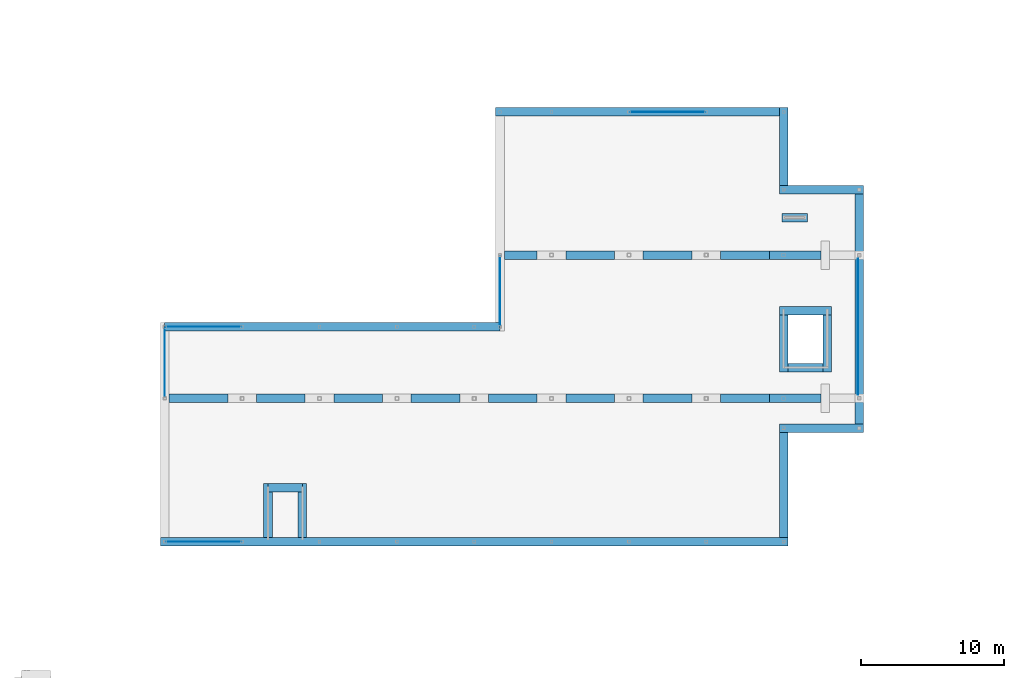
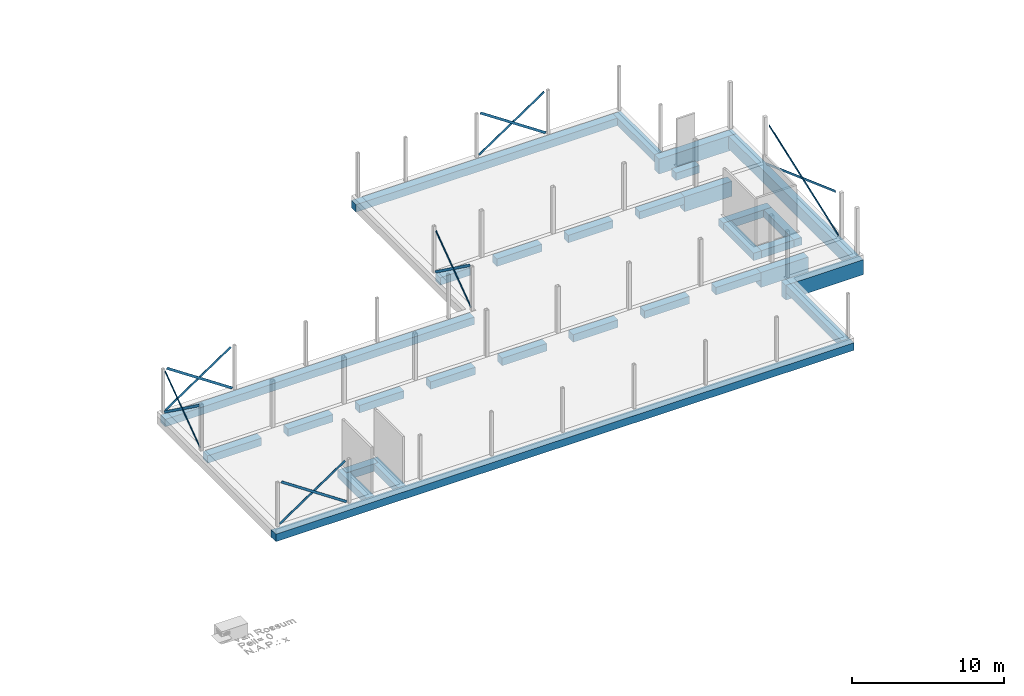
# One storey, part 6 of 12: 32 beams.
"""IFC2X3 building model written with IfcOpenShell, lengths in millimetres."""

from ifc_helpers import new_model, entity, si_unit, converted_unit, derived_unit, direction, frame, frame_2d, origin, origin_2d_with_axis, place, context, subcontext, project, spatial, rectangle, extrude, faceted_brep, source, transform, mapped, material, type_object, type_shapes, element, save


model = new_model("IFC2X3")

# Units and contexts
model_context = context("Model", 3, precision=0.01, world=origin(), true_north=direction((6.123031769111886e-17, 1.0)))
body_context = subcontext(model_context, "Body", "Model", "MODEL_VIEW")
ifc_project = project(units=[si_unit("LENGTHUNIT", "METRE", prefix="MILLI"), si_unit("AREAUNIT", "SQUARE_METRE"), si_unit("VOLUMEUNIT", "CUBIC_METRE"), converted_unit("PLANEANGLEUNIT", "DEGREE", entity("IfcPlaneAngleMeasure", 0.017453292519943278), si_unit("PLANEANGLEUNIT", "RADIAN"), dimensions=[0, 0, 0, 0, 0, 0, 0]), si_unit("MASSUNIT", "GRAM", prefix="KILO"), derived_unit("MASSDENSITYUNIT", [(si_unit("MASSUNIT", "GRAM", prefix="KILO"), 1), (si_unit("LENGTHUNIT", "METRE"), -3)]), derived_unit("IONCONCENTRATIONUNIT", [(si_unit("MASSUNIT", "GRAM", prefix="KILO"), 1), (si_unit("LENGTHUNIT", "METRE"), -3)]), derived_unit("MOMENTOFINERTIAUNIT", [(si_unit("LENGTHUNIT", "METRE"), 4)]), si_unit("TIMEUNIT", "SECOND"), si_unit("FREQUENCYUNIT", "HERTZ"), si_unit("THERMODYNAMICTEMPERATUREUNIT", "DEGREE_CELSIUS"), derived_unit("THERMALTRANSMITTANCEUNIT", [(si_unit("MASSUNIT", "GRAM", prefix="KILO"), 1), (si_unit("THERMODYNAMICTEMPERATUREUNIT", "KELVIN"), -1), (si_unit("TIMEUNIT", "SECOND"), -3)]), derived_unit("THERMALCONDUCTANCEUNIT", [(si_unit("MASSUNIT", "GRAM", prefix="KILO"), 1), (si_unit("THERMODYNAMICTEMPERATUREUNIT", "KELVIN"), -1), (si_unit("TIMEUNIT", "SECOND"), -3), (si_unit("LENGTHUNIT", "METRE"), 1)]), derived_unit("VOLUMETRICFLOWRATEUNIT", [(si_unit("LENGTHUNIT", "METRE", prefix="DECI"), 3), (si_unit("TIMEUNIT", "SECOND"), -1)]), derived_unit("MASSFLOWRATEUNIT", [(si_unit("MASSUNIT", "GRAM", prefix="KILO"), 1), (si_unit("TIMEUNIT", "SECOND"), -1)]), derived_unit("ROTATIONALFREQUENCYUNIT", [(si_unit("TIMEUNIT", "SECOND"), -1)]), si_unit("ELECTRICCURRENTUNIT", "AMPERE"), si_unit("ELECTRICVOLTAGEUNIT", "VOLT"), si_unit("POWERUNIT", "WATT"), si_unit("FORCEUNIT", "NEWTON", prefix="KILO"), si_unit("ILLUMINANCEUNIT", "LUX"), si_unit("LUMINOUSFLUXUNIT", "LUMEN"), si_unit("LUMINOUSINTENSITYUNIT", "CANDELA"), si_unit("ENERGYUNIT", "JOULE"), derived_unit("USERDEFINED", [(si_unit("MASSUNIT", "GRAM", prefix="KILO"), -1), (si_unit("LENGTHUNIT", "METRE"), -2), (si_unit("TIMEUNIT", "SECOND"), 3), (si_unit("LUMINOUSFLUXUNIT", "LUMEN"), 1)]), derived_unit("USERDEFINED", [(si_unit("MASSUNIT", "GRAM", prefix="KILO"), 1), (si_unit("TIMEUNIT", "SECOND"), -3), (si_unit("LENGTHUNIT", "METRE"), 3), (si_unit("ELECTRICCURRENTUNIT", "AMPERE"), -2)]), derived_unit("SOUNDPOWERUNIT", [(si_unit("MASSUNIT", "GRAM", prefix="KILO"), 1), (si_unit("TIMEUNIT", "SECOND"), -3), (si_unit("LENGTHUNIT", "METRE"), 2)]), derived_unit("SOUNDPRESSUREUNIT", [(si_unit("MASSUNIT", "GRAM", prefix="KILO"), 1), (si_unit("LENGTHUNIT", "METRE"), -1), (si_unit("TIMEUNIT", "SECOND"), -2)]), derived_unit("LINEARVELOCITYUNIT", [(si_unit("LENGTHUNIT", "METRE"), 1), (si_unit("TIMEUNIT", "SECOND"), -1)]), si_unit("PRESSUREUNIT", "PASCAL"), derived_unit("USERDEFINED", [(si_unit("MASSUNIT", "GRAM", prefix="KILO"), 1), (si_unit("LENGTHUNIT", "METRE"), -2), (si_unit("TIMEUNIT", "SECOND"), -2)]), derived_unit("LINEARFORCEUNIT", [(si_unit("MASSUNIT", "GRAM", prefix="KILO"), 1), (si_unit("TIMEUNIT", "SECOND"), -2)]), derived_unit("PLANARFORCEUNIT", [(si_unit("MASSUNIT", "GRAM", prefix="KILO"), 1), (si_unit("LENGTHUNIT", "METRE"), -1), (si_unit("TIMEUNIT", "SECOND"), -2)]), derived_unit("SPECIFICHEATCAPACITYUNIT", [(si_unit("THERMODYNAMICTEMPERATUREUNIT", "KELVIN"), -1), (si_unit("LENGTHUNIT", "METRE"), 2), (si_unit("TIMEUNIT", "SECOND"), -2)]), derived_unit("HEATFLUXDENSITYUNIT", [(si_unit("MASSUNIT", "GRAM", prefix="KILO"), 1), (si_unit("TIMEUNIT", "SECOND"), -3)]), derived_unit("HEATINGVALUEUNIT", [(si_unit("LENGTHUNIT", "METRE"), 2), (si_unit("TIMEUNIT", "SECOND"), -2)]), derived_unit("VAPORPERMEABILITYUNIT", [(si_unit("LENGTHUNIT", "METRE"), -1), (si_unit("TIMEUNIT", "SECOND"), 1)]), derived_unit("DYNAMICVISCOSITYUNIT", [(si_unit("MASSUNIT", "GRAM", prefix="KILO"), 1), (si_unit("TIMEUNIT", "SECOND"), -1), (si_unit("LENGTHUNIT", "METRE"), -1)]), derived_unit("THERMALEXPANSIONCOEFFICIENTUNIT", [(si_unit("THERMODYNAMICTEMPERATUREUNIT", "KELVIN"), -1)]), derived_unit("MODULUSOFELASTICITYUNIT", [(si_unit("MASSUNIT", "GRAM", prefix="KILO"), 1), (si_unit("LENGTHUNIT", "METRE"), -1), (si_unit("TIMEUNIT", "SECOND"), -2)]), derived_unit("ISOTHERMALMOISTURECAPACITYUNIT", [(si_unit("MASSUNIT", "GRAM", prefix="KILO"), -1), (si_unit("LENGTHUNIT", "METRE"), 3)]), derived_unit("MOISTUREDIFFUSIVITYUNIT", [(si_unit("TIMEUNIT", "SECOND"), -1), (si_unit("LENGTHUNIT", "METRE"), 2)]), derived_unit("MASSPERLENGTHUNIT", [(si_unit("MASSUNIT", "GRAM", prefix="KILO"), 1), (si_unit("LENGTHUNIT", "METRE"), -1)]), derived_unit("THERMALRESISTANCEUNIT", [(si_unit("MASSUNIT", "GRAM", prefix="KILO"), -1), (si_unit("TIMEUNIT", "SECOND"), 3), (si_unit("THERMODYNAMICTEMPERATUREUNIT", "KELVIN"), 1)]), derived_unit("ACCELERATIONUNIT", [(si_unit("LENGTHUNIT", "METRE"), 1), (si_unit("TIMEUNIT", "SECOND"), -2)]), derived_unit("ANGULARVELOCITYUNIT", [(si_unit("TIMEUNIT", "SECOND"), -1), (si_unit("PLANEANGLEUNIT", "RADIAN"), 1)]), derived_unit("LINEARSTIFFNESSUNIT", [(si_unit("MASSUNIT", "GRAM", prefix="KILO"), 1), (si_unit("TIMEUNIT", "SECOND"), -2)]), derived_unit("WARPINGCONSTANTUNIT", [(si_unit("LENGTHUNIT", "METRE"), 6)]), derived_unit("LINEARMOMENTUNIT", [(si_unit("MASSUNIT", "GRAM", prefix="KILO"), 1), (si_unit("LENGTHUNIT", "METRE"), 1), (si_unit("TIMEUNIT", "SECOND"), -2)]), derived_unit("TORQUEUNIT", [(si_unit("MASSUNIT", "GRAM", prefix="KILO"), 1), (si_unit("LENGTHUNIT", "METRE"), 2), (si_unit("TIMEUNIT", "SECOND"), -2)])], contexts=[model_context])

# Site, building, storey
site_placement = place(None, origin())
site = spatial("IfcSite", under=ifc_project, at=site_placement, Name="Default", CompositionType="ELEMENT")
building_placement = place(site_placement, origin())
building = spatial("IfcBuilding", under=site, at=building_placement, CompositionType="ELEMENT")
storey_placement = place(building_placement, origin())
storey = spatial("IfcBuildingStorey", under=building, at=storey_placement, Name="00 begane grond", CompositionType="ELEMENT", Elevation=0.0)

# Beams
ifc_material_1 = material(Name="VRI_beton_ihwg")
beam_type_1 = type_object("IfcBeamType", Name="16_SFR_VRI_balk_beton:600x600", PredefinedType="NOTDEFINED")
beam_1_placement = place(storey_placement, frame((53200.0, 10000.0, -460.0), z_axis=(0.0, 0.0, 1.0), x_axis=(-1.0, 0.0, 0.0)))
element("IfcBeam", 1, at=beam_1_placement, inside=storey, type_object=beam_type_1, material=ifc_material_1, Name="16_SFR_VRI_balk_beton:600x600", ObjectType="16_SFR_VRI_balk_beton:600x600", context=body_context, shape_type="SweptSolid", body=[
    extrude(rectangle(XDim=600.0000000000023, YDim=600.0, at=frame_2d((-5.684341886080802e-14, -1.6200374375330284e-12), x_axis=(1.0, 0.0))), frame((-300.0, 0.0, -300.0), z_axis=(1.0, 0.0, 0.0), x_axis=(0.0, 0.0, -1.0)), (0.0, 0.0, 1.0), 43800.00000000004),
])
beam_2_placement = place(storey_placement, frame((33400.0, 25000.0, -460.0), z_axis=(0.0, 0.0, 1.0), x_axis=(-1.0, 0.0, 0.0)))
element("IfcBeam", 2, at=beam_2_placement, inside=storey, type_object=beam_type_1, material=ifc_material_1, Name="16_SFR_VRI_balk_beton:600x600", ObjectType="16_SFR_VRI_balk_beton:600x600", context=body_context, shape_type="SweptSolid", body=[
    extrude(rectangle(XDim=600.0000000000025, YDim=600.0000000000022, at=frame_2d((-5.684341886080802e-14, 0.0), x_axis=(1.0, 0.0))), frame((0.0, 0.0, -300.0), z_axis=(1.0, 0.0, 0.0), x_axis=(0.0, 0.0, -1.0)), (0.0, 0.0, 1.0), 23419.999999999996),
])
beam_3_placement = place(storey_placement, frame((53200.0, 40000.0, -460.0), z_axis=(0.0, 0.0, 1.0), x_axis=(0.0, -1.0, 0.0)))
element("IfcBeam", 3, at=beam_3_placement, inside=storey, type_object=beam_type_1, material=ifc_material_1, Name="16_SFR_VRI_balk_beton:600x600", ObjectType="16_SFR_VRI_balk_beton:600x600", context=body_context, shape_type="SweptSolid", body=[
    extrude(rectangle(XDim=600.0000000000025, YDim=600.0000000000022, at=frame_2d((-5.684341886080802e-14, 0.0), x_axis=(1.0, 0.0))), frame((-300.0, 0.0, -300.0), z_axis=(1.0, 0.0, 0.0), x_axis=(0.0, 0.0, -1.0)), (0.0, 0.0, 1.0), 5425.000000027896),
])
beam_4_placement = place(storey_placement, frame((19600.0, 13753.0, -460.0), z_axis=(0.0, 0.0, 1.0), x_axis=(-1.0, 0.0, 0.0)))
element("IfcBeam", 4, at=beam_4_placement, inside=storey, type_object=beam_type_1, material=ifc_material_1, Name="16_SFR_VRI_balk_beton:600x600", ObjectType="16_SFR_VRI_balk_beton:600x600", context=body_context, shape_type="SweptSolid", body=[
    extrude(rectangle(XDim=600.0000000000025, YDim=599.9999999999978, at=frame_2d((-5.684341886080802e-14, 1.0800249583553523e-12), x_axis=(1.0, 0.0))), frame((0.0, 0.0, -300.0), z_axis=(1.0, 0.0, 0.0), x_axis=(0.0, 0.0, -1.0)), (0.0, 0.0, 1.0), 2399.9999999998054),
])
beam_5_placement = place(storey_placement, frame((19300.0, 10300.0, -1060.0), z_axis=(0.0, 0.0, 1.0), x_axis=(0.0, -1.0, 0.0)))
element("IfcBeam", 5, at=beam_5_placement, inside=storey, type_object=beam_type_1, material=ifc_material_1, Name="16_SFR_VRI_balk_beton:600x600", ObjectType="16_SFR_VRI_balk_beton:600x600", context=body_context, shape_type="Brep", body=[
    faceted_brep([(0.0, 0.0, 600.0), (0.0, 600.0, 600.0), (-3753.0, 600.0, 600.0), (-3753.0, 300.0, 600.0), (-3153.0, 300.0, 600.0), (-3153.0, 0.0, 600.0), (0.0, 600.0, 0.0), (-3753.0, 600.0, 0.0), (0.0, 0.0, 0.0), (-3153.0, 0.0, 0.0), (-3153.0, 300.0, 0.0), (-3753.0, 300.0, 0.0)], [[[0, 1, 2, 3, 4, 5]], [[1, 6, 7, 2]], [[6, 8, 9, 10, 11, 7]], [[8, 0, 5, 9]], [[1, 0, 8, 6]], [[2, 7, 11, 3]], [[10, 4, 3, 11]], [[4, 10, 9, 5]]]),
])
beam_6_placement = place(storey_placement, frame((53200.0, 40000.0, -460.0), z_axis=(0.0, 0.0, 1.0), x_axis=(-1.0, 0.0, 0.0)))
element("IfcBeam", 6, at=beam_6_placement, inside=storey, type_object=beam_type_1, material=ifc_material_1, Name="16_SFR_VRI_balk_beton:600x600", ObjectType="16_SFR_VRI_balk_beton:600x600", context=body_context, shape_type="SweptSolid", body=[
    extrude(rectangle(XDim=600.0000000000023, YDim=600.0000000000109, at=frame_2d((-5.684341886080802e-14, -4.348521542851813e-12), x_axis=(1.0, 0.0))), frame((300.0, 0.0, -300.0), z_axis=(1.0, 0.0, 0.0), x_axis=(0.0, 0.0, -1.0)), (0.0, 0.0, 1.0), 19800.000000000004),
])
beam_7_placement = place(storey_placement, frame((53200.0, 17925.0, -460.0), z_axis=(0.0, 0.0, 1.0), x_axis=(0.0, -1.0, 0.0)))
element("IfcBeam", 7, at=beam_7_placement, inside=storey, type_object=beam_type_1, material=ifc_material_1, Name="16_SFR_VRI_balk_beton:600x600", ObjectType="16_SFR_VRI_balk_beton:600x600", context=body_context, shape_type="SweptSolid", body=[
    extrude(rectangle(XDim=600.0000000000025, YDim=600.0000000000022, at=frame_2d((-5.684341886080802e-14, 0.0), x_axis=(1.0, 0.0))), frame((300.0, 0.0, -300.0), z_axis=(1.0, 0.0, 0.0), x_axis=(0.0, 0.0, -1.0)), (0.0, 0.0, 1.0), 7324.999999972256),
])
beam_8_placement = place(storey_placement, frame((54855.0, 32625.0, -460.0), z_axis=(0.0, 0.0, 1.0), x_axis=(-1.0, 0.0, 0.0)))
element("IfcBeam", 8, at=beam_8_placement, inside=storey, type_object=beam_type_1, material=ifc_material_1, Name="16_SFR_VRI_balk_beton:600x600", ObjectType="16_SFR_VRI_balk_beton:600x600", context=body_context, shape_type="SweptSolid", body=[
    extrude(rectangle(XDim=600.0000000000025, YDim=599.9999999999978, at=frame_2d((-5.684341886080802e-14, 0.0), x_axis=(1.0, 0.0))), frame((0.0, 0.0, -300.0), z_axis=(1.0, 0.0, 0.0), x_axis=(0.0, 0.0, -1.0)), (0.0, 0.0, 1.0), 1780.0000000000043),
])
beam_9_placement = place(storey_placement, frame((16900.0, 10300.0, -1060.0), z_axis=(0.0, 0.0, 1.0), x_axis=(0.0, -1.0, 0.0)))
element("IfcBeam", 9, at=beam_9_placement, inside=storey, type_object=beam_type_1, material=ifc_material_1, Name="16_SFR_VRI_balk_beton:600x600", ObjectType="16_SFR_VRI_balk_beton:600x600", context=body_context, shape_type="Brep", body=[
    faceted_brep([(-3753.0, 300.0, 600.0), (-3753.0, 0.0, 600.0), (0.0, 0.0, 600.0), (0.0, 600.0, 600.0), (-3153.0, 600.0, 600.0), (-3153.0, 300.0, 600.0), (-3753.0, 0.0, 0.0), (0.0, 0.0, 0.0), (-3753.0, 300.0, 0.0), (-3153.0, 300.0, 0.0), (-3153.0, 600.0, 0.0), (0.0, 600.0, 0.0)], [[[0, 1, 2, 3, 4, 5]], [[1, 6, 7, 2]], [[6, 8, 9, 10, 11, 7]], [[10, 4, 3, 11]], [[6, 1, 0, 8]], [[5, 9, 8, 0]], [[9, 5, 4, 10]], [[3, 2, 7, 11]]]),
])
beam_10_placement = place(storey_placement, frame((56250.0, 26130.0, -460.0), z_axis=(0.0, 0.0, 1.0), x_axis=(-1.0, 0.0, 0.0)))
element("IfcBeam", 10, at=beam_10_placement, inside=storey, type_object=beam_type_1, material=ifc_material_1, Name="16_SFR_VRI_balk_beton:600x600", ObjectType="16_SFR_VRI_balk_beton:600x600", context=body_context, shape_type="SweptSolid", body=[
    extrude(rectangle(XDim=600.0000000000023, YDim=599.9999999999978, at=frame_2d((-5.684341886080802e-14, 2.1600499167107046e-12), x_axis=(1.0, 0.0))), frame((-300.0, 0.0, -300.0), z_axis=(1.0, 0.0, 0.0), x_axis=(0.0, 0.0, -1.0)), (0.0, 0.0, 1.0), 3649.9999999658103),
])
beam_11_placement = place(storey_placement, frame((56250.0, 26130.0, -460.0), z_axis=(0.0, 0.0, 1.0), x_axis=(0.0, -1.0, 0.0)))
element("IfcBeam", 11, at=beam_11_placement, inside=storey, type_object=beam_type_1, material=ifc_material_1, Name="16_SFR_VRI_balk_beton:600x600", ObjectType="16_SFR_VRI_balk_beton:600x600", context=body_context, shape_type="SweptSolid", body=[
    extrude(rectangle(XDim=600.0000000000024, YDim=600.0000000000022, at=frame_2d((1.1368683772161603e-13, 0.0), x_axis=(1.0, 0.0))), frame((300.0, 0.0, -300.0), z_axis=(1.0, 0.0, 0.0), x_axis=(0.0, 0.0, -1.0)), (0.0, 0.0, 1.0), 3976.9999999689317),
])
beam_12_placement = place(storey_placement, frame((53200.0, 22153.0, -460.0), z_axis=(0.0, 0.0, 1.0), x_axis=(0.0, 1.0, 0.0)))
element("IfcBeam", 12, at=beam_12_placement, inside=storey, type_object=beam_type_1, material=ifc_material_1, Name="16_SFR_VRI_balk_beton:600x600", ObjectType="16_SFR_VRI_balk_beton:600x600", context=body_context, shape_type="SweptSolid", body=[
    extrude(rectangle(XDim=600.0000000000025, YDim=600.0000000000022, at=frame_2d((-5.684341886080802e-14, 0.0), x_axis=(1.0, 0.0))), frame((-300.0, 0.0, -300.0), z_axis=(1.0, 0.0, 0.0), x_axis=(0.0, 0.0, -1.0)), (0.0, 0.0, 1.0), 3976.9999999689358),
])
beam_13_placement = place(storey_placement, frame((53200.0, 22153.0, -460.0)))
element("IfcBeam", 13, at=beam_13_placement, inside=storey, type_object=beam_type_1, material=ifc_material_1, Name="16_SFR_VRI_balk_beton:600x600", ObjectType="16_SFR_VRI_balk_beton:600x600", context=body_context, shape_type="SweptSolid", body=[
    extrude(rectangle(XDim=600.0000000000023, YDim=599.9999999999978, at=frame_2d((-5.684341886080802e-14, 2.1600499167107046e-12), x_axis=(1.0, 0.0))), frame((300.0, 0.0, -300.0), z_axis=(1.0, 0.0, 0.0), x_axis=(0.0, 0.0, -1.0)), (0.0, 0.0, 1.0), 2449.999999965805),
])
beam_type_2 = type_object("IfcBeamType", Name="16_SFR_VRI_balk_beton:600x600", PredefinedType="BEAM", material=ifc_material_1)
shared_shape_1 = source(origin(), body_context, "Body", "SweptSolid", [
    extrude(rectangle(XDim=600.0000000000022, YDim=599.9999999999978, at=frame_2d((0.0, 4.348521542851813e-12), x_axis=(1.0, 0.0))), frame((52200.0, 20000.0, -760.0), z_axis=(-1.0, 0.0, 0.0), x_axis=(0.0, 0.0, -1.0)), (0.0, 0.0, 1.0), 3400.0000000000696),
    extrude(rectangle(XDim=600.0000000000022, YDim=599.9999999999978, at=origin_2d_with_axis()), frame((14400.0, 20000.0, -760.0), z_axis=(-1.0, 0.0, 0.0), x_axis=(0.0, 0.0, -1.0)), (0.0, 0.0, 1.0), 4100.000000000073),
    extrude(rectangle(XDim=600.0000000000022, YDim=599.9999999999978, at=frame_2d((0.0, 2.1600499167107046e-12), x_axis=(1.0, 0.0))), frame((41400.0, 20000.0, -760.0), z_axis=(-1.0, 0.0, 0.0), x_axis=(0.0, 0.0, -1.0)), (0.0, 0.0, 1.0), 3400.0),
    extrude(rectangle(XDim=600.0000000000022, YDim=599.9999999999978, at=frame_2d((0.0, 2.1600499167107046e-12), x_axis=(1.0, 0.0))), frame((36000.0, 20000.0, -760.0), z_axis=(-1.0, 0.0, 0.0), x_axis=(0.0, 0.0, -1.0)), (0.0, 0.0, 1.0), 3400.0000000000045),
    extrude(rectangle(XDim=600.0000000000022, YDim=599.9999999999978, at=frame_2d((0.0, 2.1600499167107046e-12), x_axis=(1.0, 0.0))), frame((30600.0, 20000.0, -760.0), z_axis=(-1.0, 0.0, 0.0), x_axis=(0.0, 0.0, -1.0)), (0.0, 0.0, 1.0), 3399.9999999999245),
    extrude(rectangle(XDim=600.0000000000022, YDim=599.9999999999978, at=frame_2d((0.0, 2.1600499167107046e-12), x_axis=(1.0, 0.0))), frame((25200.0, 20000.0, -760.0), z_axis=(-1.0, 0.0, 0.0), x_axis=(0.0, 0.0, -1.0)), (0.0, 0.0, 1.0), 3400.0000000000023),
    extrude(rectangle(XDim=600.0000000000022, YDim=599.9999999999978, at=frame_2d((0.0, -2.1600499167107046e-12), x_axis=(1.0, 0.0))), frame((19800.0, 20000.0, -760.0), z_axis=(-1.0, 0.0, 0.0), x_axis=(0.0, 0.0, -1.0)), (0.0, 0.0, 1.0), 3399.999999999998),
    extrude(rectangle(XDim=600.0000000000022, YDim=599.9999999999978, at=frame_2d((0.0, 2.1600499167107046e-12), x_axis=(1.0, 0.0))), frame((46800.0, 20000.0, -760.0), z_axis=(-1.0, 0.0, 0.0), x_axis=(0.0, 0.0, -1.0)), (0.0, 0.0, 1.0), 3399.9999999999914),
])
type_shapes(beam_type_2, [shared_shape_1])
beam_14_placement = place(storey_placement, origin())
element("IfcBeam", 14, at=beam_14_placement, inside=storey, type_object=beam_type_2, material=ifc_material_1, Name="16_SFR_VRI_balk_beton:600x600", ObjectType="16_SFR_VRI_balk_beton:600x600", context=body_context, shape_type="MappedRepresentation", body=[
    mapped(shared_shape_1, transform((0.0, 0.0, 0.0), scale=1.0)),
])
beam_type_3 = type_object("IfcBeamType", Name="16_SFR_VRI_balk_beton:600x1000", PredefinedType="NOTDEFINED")
beam_15_placement = place(storey_placement, frame((58475.0, 34575.0, -460.0), z_axis=(0.0, 0.0, 1.0), x_axis=(0.0, -1.0, 0.0)))
element("IfcBeam", 15, at=beam_15_placement, inside=storey, type_object=beam_type_3, material=ifc_material_1, Name="16_SFR_VRI_balk_beton:600x1000", ObjectType="16_SFR_VRI_balk_beton:600x1000", context=body_context, shape_type="SweptSolid", body=[
    extrude(rectangle(XDim=1000.0000000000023, YDim=600.0000000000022, at=origin_2d_with_axis()), frame((300.0, 0.0, -500.0), z_axis=(1.0, 0.0, 0.0), x_axis=(0.0, 0.0, -1.0)), (0.0, 0.0, 1.0), 16049.999999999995),
])
beam_type_4 = type_object("IfcBeamType", Name="16_SFR_VRI_balk_beton:600x1200", PredefinedType="NOTDEFINED")
beam_16_placement = place(storey_placement, frame((58475.0, 17925.0, -460.0), z_axis=(0.0, 0.0, 1.0), x_axis=(-1.0, 0.0, 0.0)))
element("IfcBeam", 16, at=beam_16_placement, inside=storey, type_object=beam_type_4, material=ifc_material_1, Name="16_SFR_VRI_balk_beton:600x1200", ObjectType="16_SFR_VRI_balk_beton:600x1200", context=body_context, shape_type="SweptSolid", body=[
    extrude(rectangle(XDim=1200.0000000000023, YDim=599.9999999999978, at=frame_2d((-5.684341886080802e-14, -2.1600499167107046e-12), x_axis=(1.0, 0.0))), frame((-300.0, 0.0, -600.0), z_axis=(1.0, 0.0, 0.0), x_axis=(0.0, 0.0, -1.0)), (0.0, 0.0, 1.0), 5875.000000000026),
])
beam_17_placement = place(storey_placement, frame((58475.0, 34575.0, -460.0), z_axis=(0.0, 0.0, 1.0), x_axis=(-1.0, 0.0, 0.0)))
element("IfcBeam", 17, at=beam_17_placement, inside=storey, type_object=beam_type_4, material=ifc_material_1, Name="16_SFR_VRI_balk_beton:600x1200", ObjectType="16_SFR_VRI_balk_beton:600x1200", context=body_context, shape_type="SweptSolid", body=[
    extrude(rectangle(XDim=1200.0000000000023, YDim=600.0000000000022, at=frame_2d((-5.684341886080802e-14, 0.0), x_axis=(1.0, 0.0))), frame((-300.0, 0.0, -600.0), z_axis=(1.0, 0.0, 0.0), x_axis=(0.0, 0.0, -1.0)), (0.0, 0.0, 1.0), 5875.000000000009),
])
beam_18_placement = place(storey_placement, frame((56100.0, 20000.0, -460.0), z_axis=(0.0, 0.0, 1.0), x_axis=(-1.0, 0.0, 0.0)))
element("IfcBeam", 18, at=beam_18_placement, inside=storey, type_object=beam_type_4, material=ifc_material_1, Name="16_SFR_VRI_balk_beton:600x1200", ObjectType="16_SFR_VRI_balk_beton:600x1200", context=body_context, shape_type="SweptSolid", body=[
    extrude(rectangle(XDim=1200.0000000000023, YDim=600.0000000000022, at=frame_2d((-5.684341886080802e-14, 0.0), x_axis=(1.0, 0.0))), frame((300.0, 0.0, -600.0), z_axis=(1.0, 0.0, 0.0), x_axis=(0.0, 0.0, -1.0)), (0.0, 0.0, 1.0), 3600.0000000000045),
])
beam_19_placement = place(storey_placement, frame((56075.0, 30000.0, -460.0), z_axis=(0.0, 0.0, 1.0), x_axis=(-1.0, 0.0, 0.0)))
element("IfcBeam", 19, at=beam_19_placement, inside=storey, type_object=beam_type_4, material=ifc_material_1, Name="16_SFR_VRI_balk_beton:600x1200", ObjectType="16_SFR_VRI_balk_beton:600x1200", context=body_context, shape_type="SweptSolid", body=[
    extrude(rectangle(XDim=1200.0000000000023, YDim=600.0000000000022, at=origin_2d_with_axis()), frame((275.0, 0.0, -600.0), z_axis=(1.0, 0.0, 0.0), x_axis=(0.0, 0.0, -1.0)), (0.0, 0.0, 1.0), 3599.999999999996),
])
ifc_material_2 = material(Name="VRI_staal")
beam_type_5 = type_object("IfcBeamType", Name="28_SFR_VRI_balk_staal_strip:10x180", PredefinedType="NOTDEFINED")
beam_20_placement = place(storey_placement, frame((10000.0, 20000.0, 3535.0), z_axis=(0.0, 0.5854433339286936, 0.8107133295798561), x_axis=(0.0, 0.8107133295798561, -0.5854433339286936)))
element("IfcBeam", 20, at=beam_20_placement, inside=storey, type_object=beam_type_5, material=ifc_material_2, Name="28_SFR_VRI_balk_staal_strip:10x180", ObjectType="28_SFR_VRI_balk_staal_strip:10x180", context=body_context, shape_type="SweptSolid", body=[
    extrude(rectangle(XDim=180.0000000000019, YDim=9.999999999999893, at=frame_2d((-2.1458390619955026e-12, -1.0831335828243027e-12), x_axis=(1.0, 0.0))), frame((300.0, 0.0, 0.0), z_axis=(1.0, 0.0, 0.0), x_axis=(0.0, 0.0, -1.0)), (0.0, 0.0, 1.0), 5674.807689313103),
])
beam_21_placement = place(storey_placement, frame((10000.0, 25000.0, 3535.0), z_axis=(0.0, -0.5858277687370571, 0.8104355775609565), x_axis=(0.0, -0.8104355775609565, -0.5858277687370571)))
element("IfcBeam", 21, at=beam_21_placement, inside=storey, type_object=beam_type_5, material=ifc_material_2, Name="28_SFR_VRI_balk_staal_strip:10x180", ObjectType="28_SFR_VRI_balk_staal_strip:10x180", context=body_context, shape_type="SweptSolid", body=[
    extrude(rectangle(XDim=180.00000000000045, YDim=9.999999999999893, at=frame_2d((-2.2026824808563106e-13, 1.0826894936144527e-12), x_axis=(1.0, 0.0))), frame((300.0, 0.0, 0.0), z_axis=(1.0, 0.0, 0.0), x_axis=(0.0, 0.0, -1.0)), (0.0, 0.0, 1.0), 5670.755626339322),
])
beam_22_placement = place(storey_placement, frame((10000.0, 25000.0, 3545.0), z_axis=(0.5572926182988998, 0.0, 0.8303161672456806), x_axis=(0.8303161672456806, 0.0, -0.5572926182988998)))
element("IfcBeam", 22, at=beam_22_placement, inside=storey, type_object=beam_type_5, material=ifc_material_2, Name="28_SFR_VRI_balk_staal_strip:10x180", ObjectType="28_SFR_VRI_balk_staal_strip:10x180", context=body_context, shape_type="SweptSolid", body=[
    extrude(rectangle(XDim=180.00000000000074, YDim=9.999999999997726, at=frame_2d((1.0587086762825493e-12, 2.1658230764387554e-12), x_axis=(1.0, 0.0))), frame((338.7173051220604, 0.0, 0.0), z_axis=(1.0, 0.0, 0.0), x_axis=(0.0, 0.0, -1.0)), (0.0, 0.0, 1.0), 5965.9444847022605),
])
beam_23_placement = place(storey_placement, frame((15400.0, 25000.0, 3545.0), z_axis=(-0.5573584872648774, 0.0, 0.8302719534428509), x_axis=(-0.8302719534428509, 0.0, -0.5573584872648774)))
element("IfcBeam", 23, at=beam_23_placement, inside=storey, type_object=beam_type_5, material=ifc_material_2, Name="28_SFR_VRI_balk_staal_strip:10x180", ObjectType="28_SFR_VRI_balk_staal_strip:10x180", context=body_context, shape_type="SweptSolid", body=[
    extrude(rectangle(XDim=180.00000000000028, YDim=9.999999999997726, at=frame_2d((-8.313350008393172e-13, 0.0), x_axis=(1.0, 0.0))), frame((337.77977923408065, 0.0, 0.0), z_axis=(1.0, 0.0, 0.0), x_axis=(0.0, 0.0, -1.0)), (0.0, 0.0, 1.0), 5966.1132856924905),
])
beam_24_placement = place(storey_placement, frame((58400.0, 20006.887927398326, 3542.24138507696), z_axis=(0.0, 0.3407172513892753, 0.9401658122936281), x_axis=(0.0, 0.9401658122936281, -0.3407172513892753)))
element("IfcBeam", 24, at=beam_24_placement, inside=storey, type_object=beam_type_5, material=ifc_material_2, Name="28_SFR_VRI_balk_staal_strip:10x180", ObjectType="28_SFR_VRI_balk_staal_strip:10x180", context=body_context, shape_type="SweptSolid", body=[
    extrude(rectangle(XDim=180.00000000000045, YDim=10.00000000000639, at=frame_2d((-2.5579538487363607e-13, -4.331646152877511e-12), x_axis=(1.0, 0.0))), frame((650.5912289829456, 0.0, 0.0), z_axis=(1.0, 0.0, 0.0), x_axis=(0.0, 0.0, -1.0)), (0.0, 0.0, 1.0), 9680.632667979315),
])
beam_25_placement = place(storey_placement, frame((58400.0, 29993.11207260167, 3542.2413850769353), z_axis=(0.0, -0.34076907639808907, 0.9401470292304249), x_axis=(0.0, -0.9401470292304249, -0.34076907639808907)))
element("IfcBeam", 25, at=beam_25_placement, inside=storey, type_object=beam_type_5, material=ifc_material_2, Name="28_SFR_VRI_balk_staal_strip:10x180", ObjectType="28_SFR_VRI_balk_staal_strip:10x180", context=body_context, shape_type="SweptSolid", body=[
    extrude(rectangle(XDim=180.00000000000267, YDim=9.999999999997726, at=frame_2d((-5.044853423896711e-13, 0.0), x_axis=(1.0, 0.0))), frame((679.2988146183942, 0.0, 0.0), z_axis=(1.0, 0.0, 0.0), x_axis=(0.0, 0.0, -1.0)), (0.0, 0.0, 1.0), 9650.308259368),
])
beam_26_placement = place(storey_placement, frame((10000.0, 10000.0, 3545.0), z_axis=(0.5573584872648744, 0.0, 0.8302719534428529), x_axis=(0.8302719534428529, 0.0, -0.5573584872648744)))
element("IfcBeam", 26, at=beam_26_placement, inside=storey, type_object=beam_type_5, material=ifc_material_2, Name="28_SFR_VRI_balk_staal_strip:10x180", ObjectType="28_SFR_VRI_balk_staal_strip:10x180", context=body_context, shape_type="SweptSolid", body=[
    extrude(rectangle(XDim=180.00000000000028, YDim=9.999999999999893, at=frame_2d((1.0444978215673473e-12, -1.0831335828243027e-12), x_axis=(1.0, 0.0))), frame((347.71135363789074, 0.0, 0.0), z_axis=(1.0, 0.0, 0.0), x_axis=(0.0, 0.0, -1.0)), (0.0, 0.0, 1.0), 5956.1817112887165),
])
beam_27_placement = place(storey_placement, frame((15400.0, 10000.0, 3545.0), z_axis=(-0.5572926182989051, 0.0, 0.8303161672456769), x_axis=(-0.8303161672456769, 0.0, -0.5572926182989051)))
element("IfcBeam", 27, at=beam_27_placement, inside=storey, type_object=beam_type_5, material=ifc_material_2, Name="28_SFR_VRI_balk_staal_strip:10x180", ObjectType="28_SFR_VRI_balk_staal_strip:10x180", context=body_context, shape_type="SweptSolid", body=[
    extrude(rectangle(XDim=179.99999999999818, YDim=9.999999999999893, at=frame_2d((8.313350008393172e-13, -1.0831335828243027e-12), x_axis=(1.0, 0.0))), frame((344.24902544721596, 0.0, 0.0), z_axis=(1.0, 0.0, 0.0), x_axis=(0.0, 0.0, -1.0)), (0.0, 0.0, 1.0), 5960.412764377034),
])
beam_28_placement = place(storey_placement, frame((33400.0, 25000.0, 3535.0), z_axis=(0.0, 0.5859047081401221, 0.810379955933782), x_axis=(0.0, 0.810379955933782, -0.5859047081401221)))
element("IfcBeam", 28, at=beam_28_placement, inside=storey, type_object=beam_type_5, material=ifc_material_2, Name="28_SFR_VRI_balk_staal_strip:10x180", ObjectType="28_SFR_VRI_balk_staal_strip:10x180", context=body_context, shape_type="SweptSolid", body=[
    extrude(rectangle(XDim=180.00000000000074, YDim=10.000000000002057, at=frame_2d((-2.3661073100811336e-12, 2.1658230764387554e-12), x_axis=(1.0, 0.0))), frame((300.0, 0.0, 0.0), z_axis=(1.0, 0.0, 0.0), x_axis=(0.0, 0.0, -1.0)), (0.0, 0.0, 1.0), 5669.945299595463),
])
beam_29_placement = place(storey_placement, frame((33400.0, 30000.0, 3535.0), z_axis=(0.0, -0.5858277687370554, 0.8104355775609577), x_axis=(0.0, -0.8104355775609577, -0.5858277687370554)))
element("IfcBeam", 29, at=beam_29_placement, inside=storey, type_object=beam_type_5, material=ifc_material_2, Name="28_SFR_VRI_balk_staal_strip:10x180", ObjectType="28_SFR_VRI_balk_staal_strip:10x180", context=body_context, shape_type="SweptSolid", body=[
    extrude(rectangle(XDim=180.00000000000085, YDim=9.999999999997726, at=frame_2d((-2.2026824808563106e-13, -4.331202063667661e-12), x_axis=(1.0, 0.0))), frame((300.0, 0.0, 0.0), z_axis=(1.0, 0.0, 0.0), x_axis=(0.0, 0.0, -1.0)), (0.0, 0.0, 1.0), 5670.755626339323),
])
beam_30_placement = place(storey_placement, frame((42400.0, 40000.0, 3545.0), z_axis=(0.5572926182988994, 0.0, 0.8303161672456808), x_axis=(0.8303161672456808, 0.0, -0.5572926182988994)))
element("IfcBeam", 30, at=beam_30_placement, inside=storey, type_object=beam_type_5, material=ifc_material_2, Name="28_SFR_VRI_balk_staal_strip:10x180", ObjectType="28_SFR_VRI_balk_staal_strip:10x180", context=body_context, shape_type="SweptSolid", body=[
    extrude(rectangle(XDim=180.00000000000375, YDim=9.999999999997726, at=frame_2d((4.476419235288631e-13, 4.331646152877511e-12), x_axis=(1.0, 0.0))), frame((346.04518715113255, 0.0, 0.0), z_axis=(1.0, 0.0, 0.0), x_axis=(0.0, 0.0, -1.0)), (0.0, 0.0, 1.0), 5958.616602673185),
])
beam_31_placement = place(storey_placement, frame((47800.0, 40000.0, 3545.0), z_axis=(-0.5573584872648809, 0.0, 0.8302719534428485), x_axis=(-0.8302719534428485, 0.0, -0.5573584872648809)))
element("IfcBeam", 31, at=beam_31_placement, inside=storey, type_object=beam_type_5, material=ifc_material_2, Name="28_SFR_VRI_balk_staal_strip:10x180", ObjectType="28_SFR_VRI_balk_staal_strip:10x180", context=body_context, shape_type="SweptSolid", body=[
    extrude(rectangle(XDim=180.0000000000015, YDim=9.999999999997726, at=frame_2d((4.213518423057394e-12, 8.662848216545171e-12), x_axis=(1.0, 0.0))), frame((337.51345552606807, 0.0, 0.0), z_axis=(1.0, 0.0, 0.0), x_axis=(0.0, 0.0, -1.0)), (0.0, 0.0, 1.0), 5949.954038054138),
])
beam_type_6 = type_object("IfcBeamType", Name="16_SFR_VRI_balk_beton:600x600", PredefinedType="BEAM", material=ifc_material_1)
shared_shape_2 = source(origin(), body_context, "Body", "SweptSolid", [
    extrude(rectangle(XDim=600.0000000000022, YDim=599.9999999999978, at=origin_2d_with_axis()), frame((52200.0, 30000.0, -760.0), z_axis=(-1.0, 0.0, 0.0), x_axis=(0.0, 0.0, -1.0)), (0.0, 0.0, 1.0), 3400.0000000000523),
    extrude(rectangle(XDim=600.0000000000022, YDim=599.9999999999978, at=frame_2d((0.0, 2.1600499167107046e-12), x_axis=(1.0, 0.0))), frame((36000.0, 30000.0, -760.0), z_axis=(-1.0, 0.0, 0.0), x_axis=(0.0, 0.0, -1.0)), (0.0, 0.0, 1.0), 2299.999999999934),
    extrude(rectangle(XDim=600.0000000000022, YDim=599.9999999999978, at=origin_2d_with_axis()), frame((41400.0, 30000.0, -760.0), z_axis=(-1.0, 0.0, 0.0), x_axis=(0.0, 0.0, -1.0)), (0.0, 0.0, 1.0), 3399.9999999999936),
    extrude(rectangle(XDim=600.0000000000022, YDim=599.9999999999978, at=origin_2d_with_axis()), frame((46800.0, 30000.0, -760.0), z_axis=(-1.0, 0.0, 0.0), x_axis=(0.0, 0.0, -1.0)), (0.0, 0.0, 1.0), 3400.000000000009),
])
type_shapes(beam_type_6, [shared_shape_2])
beam_32_placement = place(storey_placement, origin())
element("IfcBeam", 32, at=beam_32_placement, inside=storey, type_object=beam_type_6, material=ifc_material_1, Name="16_SFR_VRI_balk_beton:600x600", ObjectType="16_SFR_VRI_balk_beton:600x600", context=body_context, shape_type="MappedRepresentation", body=[
    mapped(shared_shape_2, transform((0.0, 0.0, 0.0), scale=1.0)),
])

save(model, "model.ifc")
